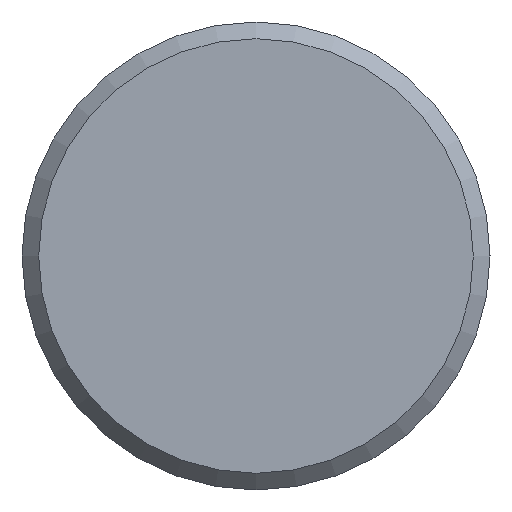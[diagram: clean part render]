
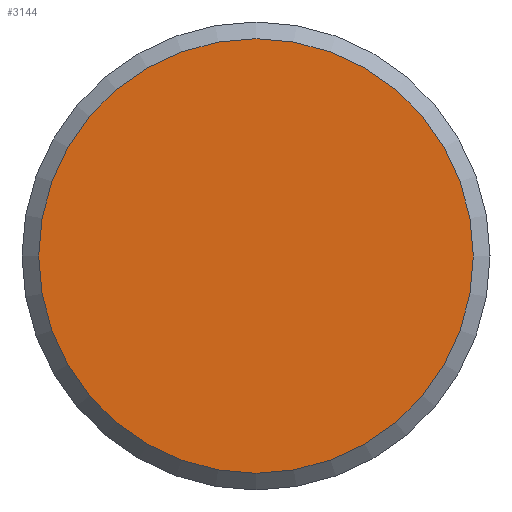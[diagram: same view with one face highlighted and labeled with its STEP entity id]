
A CAD part, left-side view. The second image highlights one B-rep face of the part: STEP entity #3144.
In plain terms, the highlighted planar face has unit normal (-1, 0, 0).
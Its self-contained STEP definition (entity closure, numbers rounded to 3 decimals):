
#1169=PLANE('',#2894);
#1179=ORIENTED_EDGE('',*,*,#1599,.F.);
#1387=CIRCLE('',#2893,6.5);
#1493=VERTEX_POINT('',#2572);
#1599=EDGE_CURVE('',#1493,#1493,#1387,.T.);
#1709=EDGE_LOOP('',(#1179));
#1921=FACE_BOUND('',#1709,.T.);
#2140=DIRECTION('',(1.,0.,0.));
#2141=DIRECTION('',(0.,-6.5,0.));
#2142=DIRECTION('',(-1.,0.,0.));
#2143=DIRECTION('',(0.,1.,0.));
#2572=CARTESIAN_POINT('',(37.411,139.006,0.));
#2573=CARTESIAN_POINT('',(37.411,145.506,0.));
#2574=CARTESIAN_POINT('',(37.411,145.506,0.));
#2893=AXIS2_PLACEMENT_3D('',#2573,#2140,#2141);
#2894=AXIS2_PLACEMENT_3D('',#2574,#2142,#2143);
#3144=ADVANCED_FACE('',(#1921),#1169,.T.);
